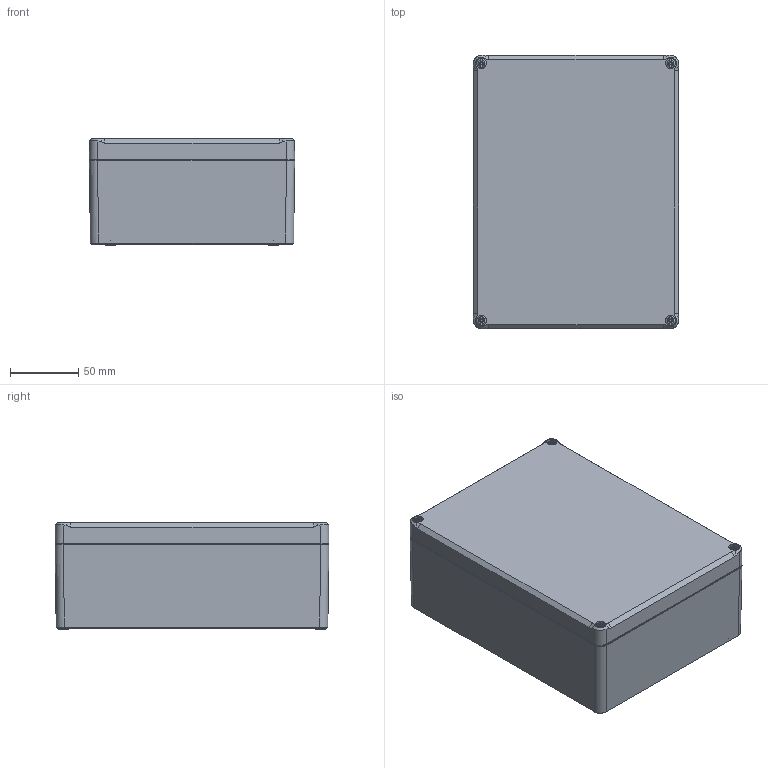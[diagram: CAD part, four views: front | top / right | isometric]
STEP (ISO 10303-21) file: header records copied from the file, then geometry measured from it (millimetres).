
FILE_DESCRIPTION((''),'2;1');
FILE_NAME('F:\User\Daten\Internet-3D-Daten\Euromas II\63223000_ET 223.stp','2009-09-02T15:29:38',('Kotzmaier'),(''),'Autodesk Inventor 2009','Autodesk Inventor 2009','');
FILE_SCHEMA(('AUTOMOTIVE_DESIGN { 1 0 10303 214 1 1 1 1 }'));
Length unit declared in the file: millimetre
Products named in the file (4): EM 223; 223 UT_1003199_3DSYM; 223&232 OT_1003197_3DSYM; SHR Z KAL40X25X10 WN 1412 MG_3DSYM
Assembly tree (6 placements, depth 2):
  EM 223
    223 UT_1003199_3DSYM
    223&232 OT_1003197_3DSYM
    SHR Z KAL40X25X10 WN 1412 MG_3DSYM  x4
Bounding box: 150 x 200 x 77.5 mm (x, y, z)
Volume: 125838.7 mm3; surface area: 242959.2 mm2
Topology: 5 solids, 6 shells, 1002 faces, 2396 edges, 1474 vertices
Faces by surface type: plane 340, cylinder 247, cone 195, bspline 144, torus 76
Full cylindrical faces by diameter (mm): 2.4 x22, 2.9 x4, 3.2 x4, 4.2 x4, 4.5 x4, 7 x4, 7.4 x4, 7.5 x4, 9 x4
Entity records: 22744 total; most frequent: CARTESIAN_POINT 7342, DIRECTION 3397, ORIENTED_EDGE 2896, EDGE_CURVE 1448, AXIS2_PLACEMENT_3D 1441, VERTEX_POINT 981, EDGE_LOOP 939, FACE_OUTER_BOUND 698
